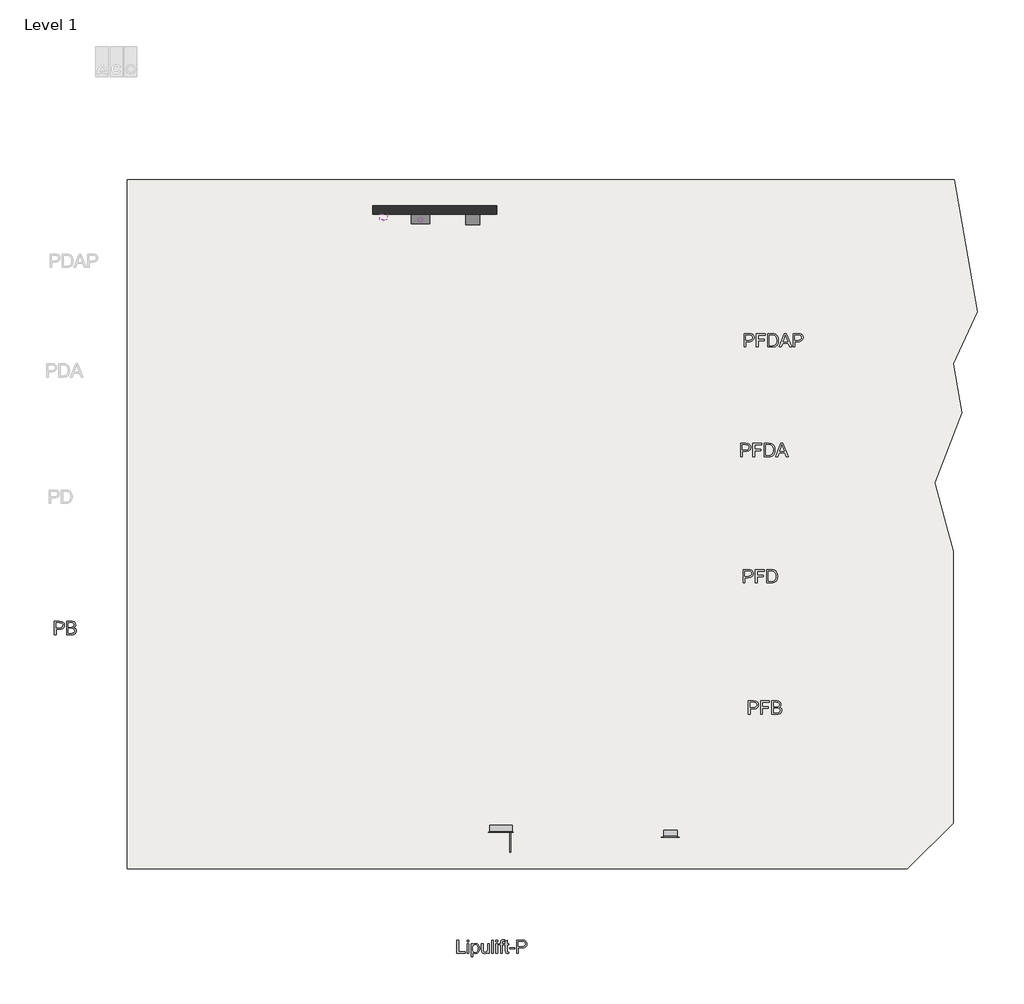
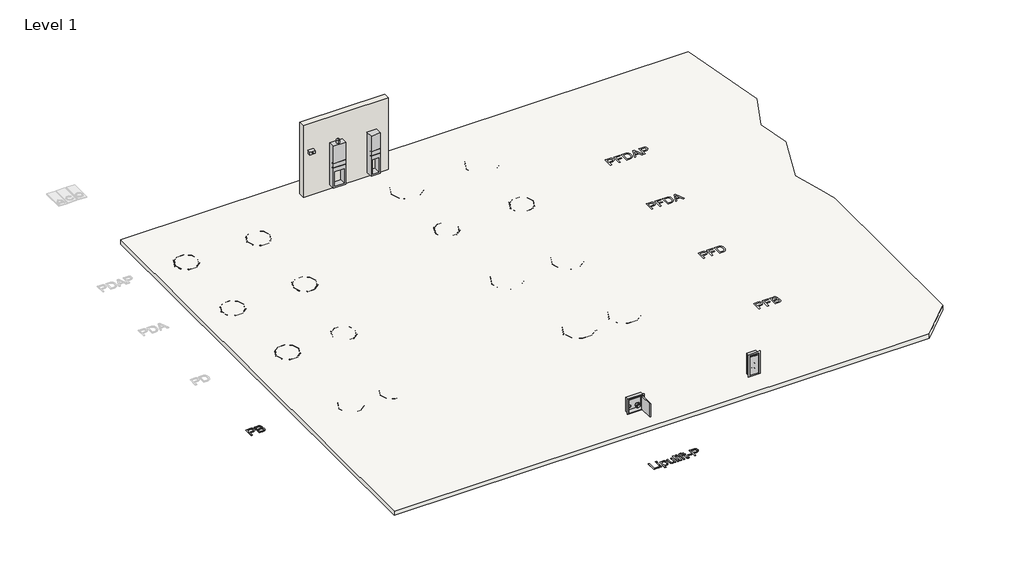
# One storey, part 1 of 2: 29 unitary equipment elements, 8 pipe fittings, 4 furniture elements, 4 proxies, 1 alarm, 1 slab, 1 wall.
"""IFC4 building model written with IfcOpenShell, lengths in millimetres."""

from ifc_helpers import new_model, si_unit, frame, origin, origin_with_axes, place, context, project, spatial, polyline, outline, extrude, transform, mapped, element, save
from components import std_nested_414b5e36, message_system_with_gsm_module_9e46706c, std_7b1f1c58, furniture_300_x_725_x_160_cc6d1901, furniture_500x500x160_e2bdd59b, me_pvc_un_outdoor_cabinet_aco_cabinet_for_multi_control_duo_19fc9964, me_pvc_un_outdoor_cabinet_aco_open_air_cabinet_heating_9f62fe86, std_nested_4dc9f993, std_nested_3c33b1e7, ns_10_sat_200_d_2e75d53a, ns_4_sat_100_d_fc64e7ec, ns_7_sat_100_d_25de03cb, std_nested_3f0f99d6, std_nested_67850f29, std_nested_fd699b8b, std_nested_81b6cdd4, std_nested_3a5789ee, std_nested_7e79f03b, std_nested_6977cd49, std_nested_bba80288, std_nested_8366b505

model = new_model("IFC4")

# Units and contexts
model_context = context("Model", 3, world=origin())
ifc_project = project(units=[si_unit("LENGTHUNIT", "METRE", prefix="MILLI")], contexts=[model_context])

# Site, building, storey
site = spatial("IfcSite", under=ifc_project)
building = spatial("IfcBuilding", under=site)
storey = spatial("IfcBuildingStorey", under=building, Name="Level 1", Elevation=0.0)

# Alarm
placement = place(None, origin())
std_nested_shape = std_nested_414b5e36(model_context)
element("IfcAlarm", 1, ObjectType="ZZZ_do not use_CD_GEN_WPB_flashing light_ACO : std(nested)", at=placement, inside=storey, context=model_context, shape_type="MappedRepresentation", body=[
    mapped(std_nested_shape, transform((6079.4239935, 8574.8421899, 1565.0), x_axis=(1.0, 0.0, 0.0), y_axis=(0.0, 1.0, 0.0), z_axis=(0.0, 0.0, 1.0))),
])

# Proxies
element("IfcBuildingElementProxy", 2, Name="100mm ACO", ObjectType="100mm ACO", at=placement, inside=storey, context=model_context, shape_type="SweptSolid", body=[
    extrude(outline(polyline([(-2204.4758582, -513.1330353), (-2092.0915554, -513.1330353), (-2046.2893242, -515.7738067), (-2027.7606333, -520.5250306), (-2010.6172651, -529.4971595), (-1996.1687824, -542.5603195), (-1985.7247481, -559.5846366), (-1979.3933905, -579.0332683), (-1977.282938, -599.3693724), (-1978.9469486, -618.9938752), (-1983.9389806, -636.5674511), (-1992.2590338, -652.0901), (-2003.9071083, -665.5618219), (-2019.2241234, -676.4522981), (-2038.5509983, -684.2312097), (-2061.8877329, -688.8985566), (-2089.2343274, -690.4543389), (-2165.686823, -690.4543389), (-2165.686823, -812.3627351), (-2204.4758582, -812.3627351), (-2204.4758582, -513.1330353)]), holes=[polyline([(-2165.686823, -657.2065945), (-2087.6758394, -657.2065945), (-2056.3491479, -653.6621165), (-2033.9729397, -643.0286826), (-2020.5472148, -625.3062928), (-2016.0719731, -600.4949471), (-2018.3988823, -582.9727797), (-2025.3796099, -567.6368247), (-2035.7478844, -556.0780385), (-2048.2374342, -549.8873778), (-2088.5416661, -546.3807798), (-2165.686823, -546.3807798), (-2165.686823, -657.2065945)])]), origin_with_axes(), (0.0, 0.0, 1.0), 10.0),
    extrude(outline(polyline([(-1763.5103313, -654.3493665), (-1738.1632553, -665.4968849), (-1720.1324147, -681.9692375), (-1709.3528726, -702.5542667), (-1705.7596919, -726.0398154), (-1708.8550223, -749.9582773), (-1718.1410134, -771.8420466), (-1733.1306377, -789.948647), (-1753.3368678, -802.5356023), (-1780.2099633, -809.9059519), (-1815.2001839, -812.3627351), (-1927.4113214, -812.3627351), (-1927.4113214, -513.1330353), (-1818.576908, -513.1330353), (-1794.1145986, -514.6265864), (-1773.5430979, -519.1072394), (-1756.8624058, -526.5749945), (-1744.0725224, -537.0298516), (-1727.8058037, -562.2470536), (-1722.3835641, -590.105027), (-1724.9377528, -609.1099226), (-1732.6003189, -626.6429128), (-1745.4361994, -641.968045), (-1763.5103313, -654.3493665)]), holes=[polyline([(-1888.6222862, -640.5827223), (-1826.3693481, -640.5827223), (-1794.1605957, -638.2449903), (-1781.919971, -633.969971), (-1771.1728974, -625.8203774), (-1763.6726738, -612.9520284), (-1761.1725993, -594.520743), (-1763.6943195, -575.1803396), (-1771.25948, -561.6626206), (-1782.3204159, -553.123405), (-1795.3294617, -548.7185118), (-1831.2179775, -546.3807798), (-1888.6222862, -546.3807798), (-1888.6222862, -640.5827223)]), polyline([(-1888.6222862, -779.1149907), (-1814.8538533, -779.1149907), (-1781.335538, -775.6192155), (-1759.9171506, -765.1318899), (-1748.3908329, -748.4755491), (-1744.548727, -726.4727287), (-1748.6397581, -704.3616799), (-1760.9128513, -687.7269849), (-1783.8572582, -677.3045962), (-1819.9622307, -673.8304667), (-1888.6222862, -673.8304667), (-1888.6222862, -779.1149907)])]), origin_with_axes(), (0.0, 0.0, 1.0), 10.0),
])
element("IfcBuildingElementProxy", 3, Name="100mm ACO", ObjectType="100mm ACO", at=placement, inside=storey, context=model_context, shape_type="SweptSolid", body=[
    extrude(outline(polyline([(7092.0372031, -8020.9782703), (6903.6333181, -8020.9782703), (6903.6333181, -7721.7485706), (6942.4223532, -7721.7485706), (6942.4223532, -7987.7305259), (7092.0372031, -7987.7305259), (7092.0372031, -8020.9782703)])), origin_with_axes(), (0.0, 0.0, 1.0), 10.0),
    extrude(outline(polyline([(7169.6152734, -8020.9782703), (7130.8262383, -8020.9782703), (7130.8262383, -7804.8679316), (7169.6152734, -7804.8679316), (7169.6152734, -8020.9782703)])), origin_with_axes(), (0.0, 0.0, 1.0), 10.0),
    extrude(outline(polyline([(7169.6152734, -7760.5376057), (7130.8262383, -7760.5376057), (7130.8262383, -7721.7485706), (7169.6152734, -7721.7485706), (7169.6152734, -7760.5376057)])), origin_with_axes(), (0.0, 0.0, 1.0), 10.0),
    extrude(outline(polyline([(7264.206838, -7830.9293146), (7275.803504, -7817.1031448), (7289.5106226, -7807.2273093), (7305.7178157, -7801.301808), (7324.4250834, -7799.3266409), (7343.949475, -7801.2639281), (7361.3092999, -7807.0757896), (7376.5045581, -7816.7622256), (7389.5352496, -7830.3232359), (7399.9901067, -7846.9958109), (7407.4578618, -7866.0169407), (7411.9385148, -7887.3866254), (7413.4320659, -7911.1048649), (7411.7437038, -7936.23819), (7406.6786178, -7958.6495724), (7398.2368077, -7978.3390122), (7386.4182735, -7995.3065093), (7372.1429562, -8008.9622195), (7356.3307965, -8018.7162981), (7338.9817944, -8024.5687453), (7320.09595, -8026.5195611), (7303.721003, -8024.9286046), (7289.0560636, -8020.155735), (7276.101132, -8012.2009524), (7264.856208, -8001.0642568), (7263.817216, -8104.0976314), (7225.0281808, -8104.0976314), (7225.0281808, -7804.8679316), (7263.817216, -7804.8679316), (7264.206838, -7830.9293146)]), holes=[polyline([(7315.8533993, -7998.8131074), (7339.1116684, -7993.3475765), (7357.9758672, -7976.9509838), (7370.4762398, -7949.7315576), (7374.6430307, -7911.7975263), (7370.6277595, -7875.6600853), (7358.5819458, -7848.9818008), (7340.2805344, -7832.5202711), (7317.49847, -7827.0330946), (7305.130677, -7828.5618198), (7293.9155159, -7833.1479955), (7274.9430888, -7851.4926982), (7262.4427161, -7879.577951), (7258.2759252, -7914.9145023), (7262.2695508, -7951.1601716), (7274.2504274, -7977.4704798), (7292.6384215, -7993.4774505), (7315.8533993, -7998.8131074)])]), origin_with_axes(), (0.0, 0.0, 1.0), 10.0),
    extrude(outline(polyline([(7635.0836953, -8020.9782703), (7601.8359509, -8020.9782703), (7601.8359509, -7989.5487619), (7587.1385431, -8005.7234866), (7571.1856865, -8017.2768613), (7552.9383893, -8024.2088861), (7532.3966514, -8026.5195611), (7510.4046538, -8023.8896125), (7490.1443095, -8015.9997669), (7473.9749963, -8003.4993943), (7464.2560918, -7987.0378646), (7459.3858168, -7965.8467566), (7457.7623918, -7939.1576493), (7457.7623918, -7804.8679316), (7496.5514269, -7804.8679316), (7496.5514269, -7927.4689892), (7499.2354896, -7969.6347484), (7504.084119, -7981.2368258), (7513.2618818, -7990.587754), (7525.6864946, -7996.756769), (7540.2756741, -7998.8131074), (7559.9407625, -7995.133344), (7578.4153393, -7984.0940539), (7586.2375422, -7974.7647714), (7591.8248299, -7961.4959776), (7596.2946602, -7923.1398558), (7596.2946602, -7804.8679316), (7635.0836953, -7804.8679316), (7635.0836953, -8020.9782703)])), origin_with_axes(), (0.0, 0.0, 1.0), 10.0),
    extrude(outline(polyline([(7729.2856379, -8020.9782703), (7690.4966027, -8020.9782703), (7690.4966027, -7721.7485706), (7729.2856379, -7721.7485706), (7729.2856379, -8020.9782703)])), origin_with_axes(), (0.0, 0.0, 1.0), 10.0),
    extrude(outline(polyline([(7823.4875804, -7760.5376057), (7784.6985452, -7760.5376057), (7784.6985452, -7721.7485706), (7823.4875804, -7721.7485706), (7823.4875804, -7760.5376057)])), origin_with_axes(), (0.0, 0.0, 1.0), 10.0),
    extrude(outline(polyline([(7823.4875804, -8020.9782703), (7784.6985452, -8020.9782703), (7784.6985452, -7804.8679316), (7823.4875804, -7804.8679316), (7823.4875804, -8020.9782703)])), origin_with_axes(), (0.0, 0.0, 1.0), 10.0),
    extrude(outline(polyline([(7978.643721, -7719.0645079), (7973.8816743, -7743.9137335), (7955.0066527, -7743.9137335), (7944.5301499, -7745.50469), (7936.1316311, -7750.2775596), (7930.6119861, -7761.3276726), (7928.7721044, -7781.7503593), (7928.7721044, -7804.8679316), (7962.0198488, -7804.8679316), (7962.0198488, -7832.5743853), (7928.7721044, -7832.5743853), (7928.7721044, -8020.9782703), (7889.9830692, -8020.9782703), (7889.9830692, -7832.5743853), (7856.7353248, -7832.5743853), (7856.7353248, -7804.8679316), (7889.9830692, -7804.8679316), (7889.9830692, -7781.1442806), (7892.8835886, -7751.2732603), (7898.1543085, -7738.5023168), (7908.1654294, -7727.0301133), (7923.9018293, -7718.9129882), (7946.3483859, -7716.2072798), (7978.643721, -7719.0645079)])), origin_with_axes(), (0.0, 0.0, 1.0), 10.0),
    extrude(outline(polyline([(8078.3869543, -8024.0086637), (8051.1999966, -8026.5195611), (8030.6257902, -8024.3658172), (8016.5236381, -8017.9045856), (8007.7679659, -8008.131567), (8003.2331986, -7996.042462), (8000.8088839, -7959.1582456), (8000.8088839, -7832.5743853), (7973.1024303, -7832.5743853), (7973.1024303, -7804.8679316), (8000.8088839, -7804.8679316), (8000.8088839, -7749.9745202), (8039.5979191, -7727.2898613), (8039.5979191, -7804.8679316), (8072.8456635, -7804.8679316), (8072.8456635, -7832.5743853), (8039.5979191, -7832.5743853), (8039.5979191, -7966.9506857), (8042.7148951, -7991.5401633), (8048.2345402, -7996.9948714), (8058.5595233, -7998.8131074), (8073.6249075, -7998.8131074), (8078.3869543, -8024.0086637)])), origin_with_axes(), (0.0, 0.0, 1.0), 10.0),
    extrude(outline(polyline([(8211.3779319, -7921.2350371), (8095.0108265, -7921.2350371), (8095.0108265, -7893.5285834), (8211.3779319, -7893.5285834), (8211.3779319, -7921.2350371)])), origin_with_axes(), (0.0, 0.0, 1.0), 10.0),
    extrude(outline(polyline([(8255.7082578, -7721.7485706), (8368.0925606, -7721.7485706), (8413.8947918, -7724.3893419), (8432.4234827, -7729.1405658), (8449.566851, -7738.1126948), (8464.0153336, -7751.1758548), (8474.4593679, -7768.2001718), (8480.7907255, -7787.6488036), (8482.901178, -7807.9849076), (8481.2371674, -7827.6094104), (8476.2451355, -7845.1829863), (8467.9250822, -7860.7056352), (8456.2770077, -7874.1773571), (8440.9599926, -7885.0678333), (8421.6331178, -7892.8467449), (8398.2963831, -7897.5140918), (8370.9497886, -7899.0698741), (8294.497293, -7899.0698741), (8294.497293, -8020.9782703), (8255.7082578, -8020.9782703), (8255.7082578, -7721.7485706)]), holes=[polyline([(8294.497293, -7865.8221297), (8372.5082766, -7865.8221297), (8403.8349681, -7862.2776517), (8426.2111763, -7851.6442179), (8439.6369012, -7833.9218281), (8444.1121429, -7809.1104823), (8441.7852337, -7791.5883149), (8434.8045061, -7776.2523599), (8424.4362316, -7764.6935738), (8411.9466818, -7758.502913), (8371.64245, -7754.996315), (8294.497293, -7754.996315), (8294.497293, -7865.8221297)])]), origin_with_axes(), (0.0, 0.0, 1.0), 10.0),
])
message_system_with_gsm_module_shape = message_system_with_gsm_module_9e46706c(model_context)
element("IfcBuildingElementProxy", 4, Name="CD_PVC_WPB_signalling device_ACO : message system with GSM module", ObjectType="CD_PVC_WPB_signalling device_ACO : message system with GSM module", at=placement, inside=storey, context=model_context, shape_type="MappedRepresentation", body=[
    mapped(message_system_with_gsm_module_shape, transform((5242.4239935, 8632.8188784, 1500.0), x_axis=(1.0, 0.0, 0.0), y_axis=(0.0, 1.0, 0.0), z_axis=(0.0, 0.0, 1.0))),
])
std_shape = std_7b1f1c58(model_context)
element("IfcBuildingElementProxy", 5, Name="ZZZ_do not use_CD_PVC_WPB_remote control_ACO : std", ObjectType="ZZZ_do not use_CD_PVC_WPB_remote control_ACO : std", at=placement, inside=storey, context=model_context, shape_type="MappedRepresentation", body=[
    mapped(std_shape, transform((11730.3168399, -5241.3383957, 560.0), x_axis=(1.0, 0.0, 0.0), y_axis=(0.0, 0.0, 1.0), z_axis=(0.0, -1.0, 0.0))),
])

# Furniture
furniture_300_x_725_x_160_shape = furniture_300_x_725_x_160_cc6d1901(model_context)
element("IfcFurniture", 6, ObjectType="ME_ST_UN_connection box double connection_ACO : 300 x 725 x 160", at=placement, inside=storey, context=model_context, shape_type="MappedRepresentation", body=[
    mapped(furniture_300_x_725_x_160_shape, transform((11730.3168399, -5399.3383957, 0.0), x_axis=(1.0, 0.0, 0.0), y_axis=(0.0, 1.0, 0.0), z_axis=(0.0, 0.0, 1.0))),
])
furniture_500x500x160_shape = furniture_500x500x160_e2bdd59b(model_context)
element("IfcFurniture", 7, ObjectType="ME_ST_UN_connection box single connection_ACO : 500x500x160", at=placement, inside=storey, context=model_context, shape_type="MappedRepresentation", body=[
    mapped(furniture_500x500x160_shape, transform((7898.5540121, -5282.3889539, 0.0), x_axis=(1.0, 0.0, 0.0), y_axis=(0.0, 1.0, 0.0), z_axis=(0.0, 0.0, 1.0))),
])
me_pvc_un_outdoor_cabinet_aco_cabinet_for_multi_control_duo_shape = me_pvc_un_outdoor_cabinet_aco_cabinet_for_multi_control_duo_19fc9964(model_context)
element("IfcFurniture", 8, ObjectType="ME_PVC_UN_outdoor cabinet_ACO : cabinet for multi control duo", at=placement, inside=storey, context=model_context, shape_type="MappedRepresentation", body=[
    mapped(me_pvc_un_outdoor_cabinet_aco_cabinet_for_multi_control_duo_shape, transform((6079.4239935, 8485.8188784, 750.0), x_axis=(1.0, 0.0, 0.0), y_axis=(0.0, 1.0, 0.0), z_axis=(0.0, 0.0, 1.0))),
])
me_pvc_un_outdoor_cabinet_aco_open_air_cabinet_heating_shape = me_pvc_un_outdoor_cabinet_aco_open_air_cabinet_heating_9f62fe86(model_context)
element("IfcFurniture", 9, ObjectType="ME_PVC_UN_outdoor cabinet_ACO : open air cabinet heating+thermostat", at=placement, inside=storey, context=model_context, shape_type="MappedRepresentation", body=[
    mapped(me_pvc_un_outdoor_cabinet_aco_open_air_cabinet_heating_shape, transform((7259.4239935, 8462.8188784, 750.0), x_axis=(1.0, 0.0, 0.0), y_axis=(0.0, 1.0, 0.0), z_axis=(0.0, 0.0, 1.0))),
])

# Pipe fittings
std_nested_2_shape = std_nested_4dc9f993(model_context)
element("IfcPipeFitting", 10, ObjectType="ZZZ_do not use_PIF_PP_WPB_compression fitting_ACO : std(nested)", at=placement, inside=storey, context=model_context, shape_type="MappedRepresentation", body=[
    mapped(std_nested_2_shape, transform((3133.190905, -920.5453596, -1046.0030189), x_axis=(0.0, 0.0, -1.0), y_axis=(0.0, 1.0, 0.0), z_axis=(1.0, 0.0, 0.0))),
])
std_nested_3_shape = std_nested_3c33b1e7(model_context)
element("IfcPipeFitting", 11, ObjectType="ZZZ_do not use_PIF_PP_WPB_compression fitting_ACO : std(nested)", at=placement, inside=storey, context=model_context, shape_type="MappedRepresentation", body=[
    mapped(std_nested_3_shape, transform((3378.190905, 2259.4546404, -1046.0030189), x_axis=(0.0, 0.0, -1.0), y_axis=(0.0, 1.0, 0.0), z_axis=(1.0, 0.0, 0.0))),
])
element("IfcPipeFitting", 12, ObjectType="ZZZ_do not use_PIF_PP_WPB_compression fitting_ACO : std(nested)", at=placement, inside=storey, context=model_context, shape_type="MappedRepresentation", body=[
    mapped(std_nested_3_shape, transform((3623.190905, 4939.4546404, -1206.0030189), x_axis=(0.0, 0.0, -1.0), y_axis=(0.0, 1.0, 0.0), z_axis=(1.0, 0.0, 0.0))),
])
element("IfcPipeFitting", 13, ObjectType="ZZZ_do not use_PIF_PP_WPB_compression fitting_ACO : std(nested)", at=placement, inside=storey, context=model_context, shape_type="MappedRepresentation", body=[
    mapped(std_nested_3_shape, transform((3623.190905, 7579.4546404, -1376.0030189), x_axis=(0.0, 0.0, -1.0), y_axis=(0.0, 1.0, 0.0), z_axis=(1.0, 0.0, 0.0))),
])
element("IfcPipeFitting", 14, ObjectType="ZZZ_do not use_PIF_PP_WPB_compression fitting_ACO : std(nested)", at=placement, inside=storey, context=model_context, shape_type="MappedRepresentation", body=[
    mapped(std_nested_3_shape, transform((10738.190905, -883.1723857, -1071.0030189), x_axis=(0.0, 0.0, -1.0), y_axis=(0.0, 1.0, 0.0), z_axis=(1.0, 0.0, 0.0))),
])
element("IfcPipeFitting", 15, ObjectType="ZZZ_do not use_PIF_PP_WPB_compression fitting_ACO : std(nested)", at=placement, inside=storey, context=model_context, shape_type="MappedRepresentation", body=[
    mapped(std_nested_3_shape, transform((10678.190905, 2259.4546404, -1401.0030189), x_axis=(0.0, 0.0, -1.0), y_axis=(0.0, 1.0, 0.0), z_axis=(1.0, 0.0, 0.0))),
])
element("IfcPipeFitting", 16, ObjectType="ZZZ_do not use_PIF_PP_WPB_compression fitting_ACO : std(nested)", at=placement, inside=storey, context=model_context, shape_type="MappedRepresentation", body=[
    mapped(std_nested_3_shape, transform((10923.190905, 5276.447744, -1246.0030189), x_axis=(0.0, 0.0, -1.0), y_axis=(0.0, 1.0, 0.0), z_axis=(1.0, 0.0, 0.0))),
])
element("IfcPipeFitting", 17, ObjectType="ZZZ_do not use_PIF_PP_WPB_compression fitting_ACO : std(nested)", at=placement, inside=storey, context=model_context, shape_type="MappedRepresentation", body=[
    mapped(std_nested_3_shape, transform((10923.190905, 7579.4546404, -1151.0030189), x_axis=(0.0, 0.0, -1.0), y_axis=(0.0, 1.0, 0.0), z_axis=(1.0, 0.0, 0.0))),
])

# Slab
element("IfcSlab", 18, ObjectType="Floor 1", at=placement, inside=storey, context=model_context, shape_type="SweptSolid", body=[
    extrude(outline(polyline([(18149.6303178, 9480.0), (18676.5637833, 6491.6118169), (18127.160043, 5313.4116938), (18322.2750851, 4206.859303), (17713.0495709, 2619.7725779), (17971.868616, 1653.8467516), (18127.160043, 1074.2912559), (18127.160043, -5074.1822301), (17092.9246515, -6108.4176217), (-550.0, -6108.4176217), (-550.0, 9480.0), (18149.6303178, 9480.0)])), frame((0.0, 0.0, -150.0), z_axis=(0.0, 0.0, 1.0), x_axis=(1.0, 0.0, 0.0)), (0.0, 0.0, 1.0), 150.0),
])

# Unitary equipment
ns_10_sat_200_d_shape = ns_10_sat_200_d_2e75d53a(model_context)
element("IfcUnitaryEquipment", 19, ObjectType="ME_PE_UN_Lipulift-PFDAP_ACO : NS-10 Sat-200/D", at=placement, inside=storey, context=model_context, shape_type="MappedRepresentation", body=[
    mapped(ns_10_sat_200_d_shape, transform((9000.0, 7580.0, 0.0), x_axis=(1.0, 0.0, 0.0), y_axis=(0.0, 1.0, 0.0), z_axis=(0.0, 0.0, 1.0))),
])
ns_4_sat_100_d_shape = ns_4_sat_100_d_fc64e7ec(model_context)
element("IfcUnitaryEquipment", 20, ObjectType="ME_PE_UN_Lipulift-PFB_ACO : NS-4 Sat-100/D", at=placement, inside=storey, context=model_context, shape_type="MappedRepresentation", body=[
    mapped(ns_4_sat_100_d_shape, transform((9305.0, -882.6270261, 0.0), x_axis=(1.0, 0.0, 0.0), y_axis=(0.0, 1.0, 0.0), z_axis=(0.0, 0.0, 1.0))),
])
ns_7_sat_100_d_shape = ns_7_sat_100_d_25de03cb(model_context)
element("IfcUnitaryEquipment", 21, ObjectType="ME_PE_UN_Lipulift-PFD_ACO : NS-7 Sat-100/D", at=placement, inside=storey, context=model_context, shape_type="MappedRepresentation", body=[
    mapped(ns_7_sat_100_d_shape, transform((9000.0, 2260.0, 0.0), x_axis=(1.0, 0.0, 0.0), y_axis=(0.0, 1.0, 0.0), z_axis=(0.0, 0.0, 1.0))),
])
std_nested_4_shape = std_nested_3f0f99d6(model_context)
element("IfcUnitaryEquipment", 22, ObjectType="ZZZ_do not use_ME_PE_UN_concrete_bearing ring_ACO : std(nested)", at=placement, inside=storey, context=model_context, shape_type="MappedRepresentation", body=[
    mapped(std_nested_4_shape, transform((510.0, 4940.0, -90.0), x_axis=(1.0, 0.0, 0.0), y_axis=(0.0, 1.0, 0.0), z_axis=(0.0, 0.0, 1.0))),
])
element("IfcUnitaryEquipment", 23, ObjectType="ZZZ_do not use_ME_PE_UN_concrete_bearing ring_ACO : std(nested)", at=placement, inside=storey, context=model_context, shape_type="MappedRepresentation", body=[
    mapped(std_nested_4_shape, transform((2890.0, 4943.75, -90.0), x_axis=(1.0, 0.0, 0.0), y_axis=(0.0, 1.0, 0.0), z_axis=(0.0, 0.0, 1.0))),
])
std_nested_5_shape = std_nested_67850f29(model_context)
element("IfcUnitaryEquipment", 24, ObjectType="ZZZ_do not use_ME_ST_WPB_top sections_plastic_ACO : std(nested)", at=placement, inside=storey, context=model_context, shape_type="MappedRepresentation", body=[
    mapped(std_nested_5_shape, transform((8555.0, -882.6270261, 0.0), x_axis=(1.0, 0.0, 0.0), y_axis=(0.0, 1.0, 0.0), z_axis=(0.0, 0.0, 1.0))),
])
element("IfcUnitaryEquipment", 25, ObjectType="ZZZ_do not use_ME_ST_WPB_top sections_plastic_ACO : std(nested)", at=placement, inside=storey, context=model_context, shape_type="MappedRepresentation", body=[
    mapped(std_nested_5_shape, transform((10055.0, -882.6270261, 0.0), x_axis=(1.0, 0.0, 0.0), y_axis=(0.0, 1.0, 0.0), z_axis=(0.0, 0.0, 1.0))),
])
std_nested_6_shape = std_nested_fd699b8b(model_context)
element("IfcUnitaryEquipment", 26, ObjectType="ZZZ_do not use_ME_ST_WPB_top sections_plastic_ACO : std(nested)", at=placement, inside=storey, context=model_context, shape_type="MappedRepresentation", body=[
    mapped(std_nested_6_shape, transform((8005.0, 2260.0, 0.0), x_axis=(1.0, 0.0, 0.0), y_axis=(0.0, 1.0, 0.0), z_axis=(0.0, 0.0, 1.0))),
])
element("IfcUnitaryEquipment", 27, ObjectType="ZZZ_do not use_ME_ST_WPB_top sections_plastic_ACO : std(nested)", at=placement, inside=storey, context=model_context, shape_type="MappedRepresentation", body=[
    mapped(std_nested_6_shape, transform((9995.0, 2260.0, 0.0), x_axis=(1.0, 0.0, 0.0), y_axis=(0.0, 1.0, 0.0), z_axis=(0.0, 0.0, 1.0))),
])
std_nested_7_shape = std_nested_81b6cdd4(model_context)
element("IfcUnitaryEquipment", 28, ObjectType="ZZZ_do not use_ME_ST_WPB_top sections_plastic_ACO : std(nested)", at=placement, inside=storey, context=model_context, shape_type="MappedRepresentation", body=[
    mapped(std_nested_7_shape, transform((7760.0, 5276.9931037, 0.0), x_axis=(1.0, 0.0, 0.0), y_axis=(0.0, 1.0, 0.0), z_axis=(0.0, 0.0, 1.0))),
])
element("IfcUnitaryEquipment", 29, ObjectType="ZZZ_do not use_ME_ST_WPB_top sections_plastic_ACO : std(nested)", at=placement, inside=storey, context=model_context, shape_type="MappedRepresentation", body=[
    mapped(std_nested_7_shape, transform((10240.0, 5276.9931037, 0.0), x_axis=(1.0, 0.0, 0.0), y_axis=(0.0, 1.0, 0.0), z_axis=(0.0, 0.0, 1.0))),
])
std_nested_8_shape = std_nested_3a5789ee(model_context)
element("IfcUnitaryEquipment", 30, ObjectType="ZZZ_do not use_ME_ST_WPB_top sections_plastic_ACO : std(nested)", at=placement, inside=storey, context=model_context, shape_type="MappedRepresentation", body=[
    mapped(std_nested_8_shape, transform((7760.0, 7580.0, 0.0), x_axis=(1.0, 0.0, 0.0), y_axis=(0.0, 1.0, 0.0), z_axis=(0.0, 0.0, 1.0))),
])
element("IfcUnitaryEquipment", 31, ObjectType="ZZZ_do not use_ME_ST_WPB_top sections_plastic_ACO : std(nested)", at=placement, inside=storey, context=model_context, shape_type="MappedRepresentation", body=[
    mapped(std_nested_8_shape, transform((10240.0, 7580.0, 0.0), x_axis=(1.0, 0.0, 0.0), y_axis=(0.0, 1.0, 0.0), z_axis=(0.0, 0.0, 1.0))),
])
std_nested_9_shape = std_nested_7e79f03b(model_context)
element("IfcUnitaryEquipment", 32, ObjectType="ZZZ_do not use_ME_ST_WPB_manhole covers_ACO : std(nested)", at=placement, inside=storey, context=model_context, shape_type="MappedRepresentation", body=[
    mapped(std_nested_9_shape, transform((1020.0, -920.0, 0.0), x_axis=(1.0, 0.0, 0.0), y_axis=(0.0, 1.0, 0.0), z_axis=(0.0, 0.0, 1.0))),
])
element("IfcUnitaryEquipment", 33, ObjectType="ZZZ_do not use_ME_ST_WPB_manhole covers_ACO : std(nested)", at=placement, inside=storey, context=model_context, shape_type="MappedRepresentation", body=[
    mapped(std_nested_9_shape, transform((2380.0, -916.25, 0.0), x_axis=(1.0, 0.0, 0.0), y_axis=(0.0, 1.0, 0.0), z_axis=(0.0, 0.0, 1.0))),
])
std_nested_10_shape = std_nested_6977cd49(model_context)
element("IfcUnitaryEquipment", 34, ObjectType="ZZZ_do not use_ME_ST_WPB_manhole covers_ACO : std(nested)", at=placement, inside=storey, context=model_context, shape_type="MappedRepresentation", body=[
    mapped(std_nested_10_shape, transform((770.0, 2260.0, 0.0), x_axis=(1.0, 0.0, 0.0), y_axis=(0.0, 1.0, 0.0), z_axis=(0.0, 0.0, 1.0))),
])
element("IfcUnitaryEquipment", 35, ObjectType="ZZZ_do not use_ME_ST_WPB_manhole covers_ACO : std(nested)", at=placement, inside=storey, context=model_context, shape_type="MappedRepresentation", body=[
    mapped(std_nested_10_shape, transform((2630.0, 2263.75, 0.0), x_axis=(1.0, 0.0, 0.0), y_axis=(0.0, 1.0, 0.0), z_axis=(0.0, 0.0, 1.0))),
])
element("IfcUnitaryEquipment", 36, ObjectType="ZZZ_do not use_ME_ST_WPB_manhole covers_ACO : std(nested)", at=placement, inside=storey, context=model_context, shape_type="MappedRepresentation", body=[
    mapped(std_nested_10_shape, transform((510.0, 4940.0, 0.0), x_axis=(1.0, 0.0, 0.0), y_axis=(0.0, 1.0, 0.0), z_axis=(0.0, 0.0, 1.0))),
])
element("IfcUnitaryEquipment", 37, ObjectType="ZZZ_do not use_ME_ST_WPB_manhole covers_ACO : std(nested)", at=placement, inside=storey, context=model_context, shape_type="MappedRepresentation", body=[
    mapped(std_nested_10_shape, transform((2890.0, 4943.75, 0.0), x_axis=(1.0, 0.0, 0.0), y_axis=(0.0, 1.0, 0.0), z_axis=(0.0, 0.0, 1.0))),
])
std_nested_11_shape = std_nested_bba80288(model_context)
element("IfcUnitaryEquipment", 38, ObjectType="ZZZ_do not use_ME_PE_UN_concrete_bearing ring_ACO : std(nested)", at=placement, inside=storey, context=model_context, shape_type="MappedRepresentation", body=[
    mapped(std_nested_11_shape, transform((510.0, 4940.0, -160.0), x_axis=(1.0, 0.0, 0.0), y_axis=(0.0, 1.0, 0.0), z_axis=(0.0, 0.0, 1.0))),
])
element("IfcUnitaryEquipment", 39, ObjectType="ZZZ_do not use_ME_PE_UN_concrete_bearing ring_ACO : std(nested)", at=placement, inside=storey, context=model_context, shape_type="MappedRepresentation", body=[
    mapped(std_nested_11_shape, transform((2890.0, 4943.75, -160.0), x_axis=(1.0, 0.0, 0.0), y_axis=(0.0, 1.0, 0.0), z_axis=(0.0, 0.0, 1.0))),
])
element("IfcUnitaryEquipment", 40, ObjectType="ZZZ_do not use_ME_ST_WPB_manhole covers_ACO : std(nested)", at=placement, inside=storey, context=model_context, shape_type="MappedRepresentation", body=[
    mapped(std_nested_10_shape, transform((510.0, 7580.0, 0.0), x_axis=(1.0, 0.0, 0.0), y_axis=(0.0, 1.0, 0.0), z_axis=(0.0, 0.0, 1.0))),
])
element("IfcUnitaryEquipment", 41, ObjectType="ZZZ_do not use_ME_ST_WPB_manhole covers_ACO : std(nested)", at=placement, inside=storey, context=model_context, shape_type="MappedRepresentation", body=[
    mapped(std_nested_10_shape, transform((2890.0, 7583.75, 0.0), x_axis=(1.0, 0.0, 0.0), y_axis=(0.0, 1.0, 0.0), z_axis=(0.0, 0.0, 1.0))),
])
std_nested_12_shape = std_nested_8366b505(model_context)
element("IfcUnitaryEquipment", 42, ObjectType="ZZZ_do not use_ME_PE_UN_concrete_bearing ring_ACO : std(nested)", at=placement, inside=storey, context=model_context, shape_type="MappedRepresentation", body=[
    mapped(std_nested_12_shape, transform((510.0, 7580.0, -310.0), x_axis=(1.0, 0.0, 0.0), y_axis=(0.0, 1.0, 0.0), z_axis=(0.0, 0.0, 1.0))),
])
element("IfcUnitaryEquipment", 43, ObjectType="ZZZ_do not use_ME_PE_UN_concrete_bearing ring_ACO : std(nested)", at=placement, inside=storey, context=model_context, shape_type="MappedRepresentation", body=[
    mapped(std_nested_12_shape, transform((2890.0, 7583.75, -310.0), x_axis=(1.0, 0.0, 0.0), y_axis=(0.0, 1.0, 0.0), z_axis=(0.0, 0.0, 1.0))),
])
element("IfcUnitaryEquipment", 44, ObjectType="ZZZ_do not use_ME_PE_UN_concrete_bearing ring_ACO : std(nested)", at=placement, inside=storey, context=model_context, shape_type="MappedRepresentation", body=[
    mapped(std_nested_12_shape, transform((510.0, 7580.0, -200.0), x_axis=(1.0, 0.0, 0.0), y_axis=(0.0, 1.0, 0.0), z_axis=(0.0, 0.0, 1.0))),
])
element("IfcUnitaryEquipment", 45, ObjectType="ZZZ_do not use_ME_PE_UN_concrete_bearing ring_ACO : std(nested)", at=placement, inside=storey, context=model_context, shape_type="MappedRepresentation", body=[
    mapped(std_nested_12_shape, transform((2890.0, 7583.75, -200.0), x_axis=(1.0, 0.0, 0.0), y_axis=(0.0, 1.0, 0.0), z_axis=(0.0, 0.0, 1.0))),
])
element("IfcUnitaryEquipment", 46, ObjectType="ZZZ_do not use_ME_PE_UN_concrete_bearing ring_ACO : std(nested)", at=placement, inside=storey, context=model_context, shape_type="MappedRepresentation", body=[
    mapped(std_nested_12_shape, transform((510.0, 7580.0, -90.0), x_axis=(1.0, 0.0, 0.0), y_axis=(0.0, 1.0, 0.0), z_axis=(0.0, 0.0, 1.0))),
])
element("IfcUnitaryEquipment", 47, ObjectType="ZZZ_do not use_ME_PE_UN_concrete_bearing ring_ACO : std(nested)", at=placement, inside=storey, context=model_context, shape_type="MappedRepresentation", body=[
    mapped(std_nested_12_shape, transform((2890.0, 7583.75, -90.0), x_axis=(1.0, 0.0, 0.0), y_axis=(0.0, 1.0, 0.0), z_axis=(0.0, 0.0, 1.0))),
])

# Wall
element("IfcWall", 48, ObjectType="200mm", at=placement, inside=storey, context=model_context, shape_type="SweptSolid", body=[
    extrude(outline(polyline([(7802.4239935, 8692.8188784), (5002.4239935, 8692.8188784), (5002.4239935, 8892.8188784), (7802.4239935, 8892.8188784), (7802.4239935, 8692.8188784)])), origin_with_axes(), (0.0, 0.0, 1.0), 2500.0),
])

save(model, "model.ifc")
